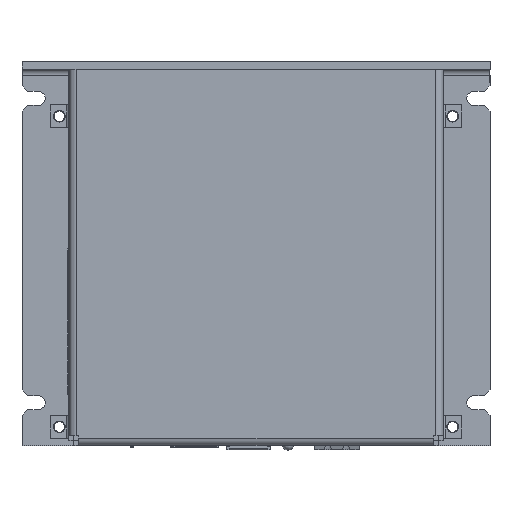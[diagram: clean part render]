
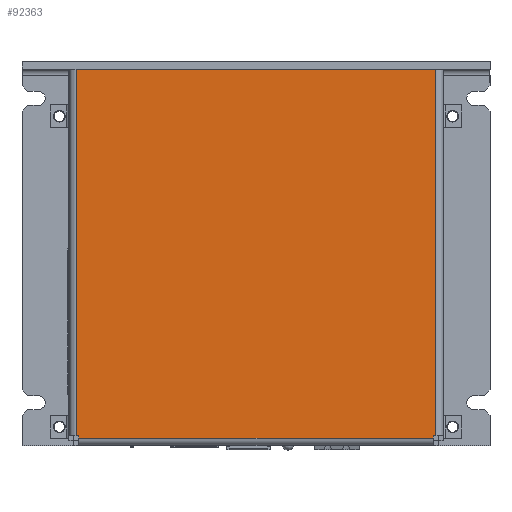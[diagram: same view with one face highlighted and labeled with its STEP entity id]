
A CAD part, top view. The second image highlights one B-rep face of the part: STEP entity #92363.
In plain terms, the highlighted planar face has unit normal (0, 0, 1).
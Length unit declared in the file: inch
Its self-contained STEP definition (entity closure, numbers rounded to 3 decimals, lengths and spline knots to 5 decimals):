
#18337 = CARTESIAN_POINT ( 'NONE',  ( 1.921, 2.01, 1.12 ) ) ;
#18354 = CARTESIAN_POINT ( 'NONE',  ( -1.921, 2.01, 1.12 ) ) ;
#18366 = CARTESIAN_POINT ( 'NONE',  ( 1.896, -1.931, 1.12 ) ) ;
#18369 = CARTESIAN_POINT ( 'NONE',  ( 1.896, -1.906, 1.12 ) ) ;
#18370 = CARTESIAN_POINT ( 'NONE',  ( 1.921, -1.906, 1.12 ) ) ;
#18372 = CARTESIAN_POINT ( 'NONE',  ( -1.921, -1.906, 1.12 ) ) ;
#18378 = CARTESIAN_POINT ( 'NONE',  ( -1.896, -1.906, 1.12 ) ) ;
#18382 = CARTESIAN_POINT ( 'NONE',  ( -1.896, -1.931, 1.12 ) ) ;
#25522 = VERTEX_POINT ( 'NONE', #18337 ) ;
#25538 = VERTEX_POINT ( 'NONE', #18354 ) ;
#25550 = VERTEX_POINT ( 'NONE', #18366 ) ;
#25554 = VERTEX_POINT ( 'NONE', #18369 ) ;
#25555 = VERTEX_POINT ( 'NONE', #18370 ) ;
#25556 = VERTEX_POINT ( 'NONE', #18372 ) ;
#25560 = VERTEX_POINT ( 'NONE', #18378 ) ;
#25564 = VERTEX_POINT ( 'NONE', #18382 ) ;
#30579 = ORIENTED_EDGE ( 'NONE', *, *, #69125, .T. ) ;
#30580 = ORIENTED_EDGE ( 'NONE', *, *, #69113, .T. ) ;
#30581 = ORIENTED_EDGE ( 'NONE', *, *, #69138, .T. ) ;
#30582 = ORIENTED_EDGE ( 'NONE', *, *, #69103, .F. ) ;
#30583 = ORIENTED_EDGE ( 'NONE', *, *, #69013, .T. ) ;
#30584 = ORIENTED_EDGE ( 'NONE', *, *, #69115, .T. ) ;
#30585 = ORIENTED_EDGE ( 'NONE', *, *, #69118, .T. ) ;
#30586 = ORIENTED_EDGE ( 'NONE', *, *, #69117, .T. ) ;
#50667 = AXIS2_PLACEMENT_3D ( 'NONE', #55942, #55960, #55961 ) ;
#51771 = EDGE_LOOP ( 'NONE', ( #30579, #30580, #30581, #30582, #30583, #30584, #30585, #30586 ) ) ;
#55942 = CARTESIAN_POINT ( 'NONE',  ( -2.2, -2.01, 1.12 ) ) ;
#55953 = FACE_OUTER_BOUND ( 'NONE', #51771, .T. ) ;
#55957 = PLANE ( 'NONE',  #50667 ) ;
#55960 = DIRECTION ( 'NONE',  ( 0., 0., 1. ) ) ;
#55961 = DIRECTION ( 'NONE',  ( 1., 0., 0. ) ) ;
#69013 = EDGE_CURVE ( 'NONE', #25556, #25560, #93133, .T. ) ;
#69103 = EDGE_CURVE ( 'NONE', #25556, #25538, #93735, .T. ) ;
#69113 = EDGE_CURVE ( 'NONE', #25555, #25522, #93795, .T. ) ;
#69115 = EDGE_CURVE ( 'NONE', #25560, #25564, #93862, .T. ) ;
#69117 = EDGE_CURVE ( 'NONE', #25550, #25554, #93807, .T. ) ;
#69118 = EDGE_CURVE ( 'NONE', #25564, #25550, #93892, .T. ) ;
#69125 = EDGE_CURVE ( 'NONE', #25554, #25555, #93915, .T. ) ;
#69138 = EDGE_CURVE ( 'NONE', #25522, #25538, #94095, .T. ) ;
#90696 = VECTOR ( 'NONE', #93168, 39.37008 ) ;
#90764 = VECTOR ( 'NONE', #93748, 39.37008 ) ;
#90778 = VECTOR ( 'NONE', #93849, 39.37008 ) ;
#90781 = VECTOR ( 'NONE', #93889, 39.37008 ) ;
#90783 = VECTOR ( 'NONE', #93869, 39.37008 ) ;
#90786 = VECTOR ( 'NONE', #93899, 39.37008 ) ;
#90791 = VECTOR ( 'NONE', #93969, 39.37008 ) ;
#90808 = VECTOR ( 'NONE', #94103, 39.37008 ) ;
#92363 = ADVANCED_FACE ( 'NONE', ( #55953 ), #55957, .T. ) ;
#93133 = LINE ( 'NONE', #93161, #90696 ) ;
#93161 = CARTESIAN_POINT ( 'NONE',  ( -2.2, -1.906, 1.12 ) ) ;
#93168 = DIRECTION ( 'NONE',  ( 1., 0., 0. ) ) ;
#93683 = CARTESIAN_POINT ( 'NONE',  ( -1.921, 2.01, 1.12 ) ) ;
#93735 = LINE ( 'NONE', #93683, #90764 ) ;
#93748 = DIRECTION ( 'NONE',  ( 0., 1., 0. ) ) ;
#93795 = LINE ( 'NONE', #93843, #90778 ) ;
#93807 = LINE ( 'NONE', #93883, #90781 ) ;
#93843 = CARTESIAN_POINT ( 'NONE',  ( 1.921, 2.01, 1.12 ) ) ;
#93849 = DIRECTION ( 'NONE',  ( 0., 1., 0. ) ) ;
#93862 = LINE ( 'NONE', #93866, #90783 ) ;
#93866 = CARTESIAN_POINT ( 'NONE',  ( -1.896, -2.01, 1.12 ) ) ;
#93869 = DIRECTION ( 'NONE',  ( 0., -1., 0. ) ) ;
#93883 = CARTESIAN_POINT ( 'NONE',  ( 1.896, -2.01, 1.12 ) ) ;
#93889 = DIRECTION ( 'NONE',  ( 0., 1., 0. ) ) ;
#93892 = LINE ( 'NONE', #93896, #90786 ) ;
#93896 = CARTESIAN_POINT ( 'NONE',  ( 1.896, -1.931, 1.12 ) ) ;
#93899 = DIRECTION ( 'NONE',  ( 1., 0., 0. ) ) ;
#93915 = LINE ( 'NONE', #93963, #90791 ) ;
#93963 = CARTESIAN_POINT ( 'NONE',  ( -2.2, -1.906, 1.12 ) ) ;
#93969 = DIRECTION ( 'NONE',  ( 1., 0., 0. ) ) ;
#94095 = LINE ( 'NONE', #94100, #90808 ) ;
#94100 = CARTESIAN_POINT ( 'NONE',  ( -2.2, 2.01, 1.12 ) ) ;
#94103 = DIRECTION ( 'NONE',  ( -1., 0., 0. ) ) ;
